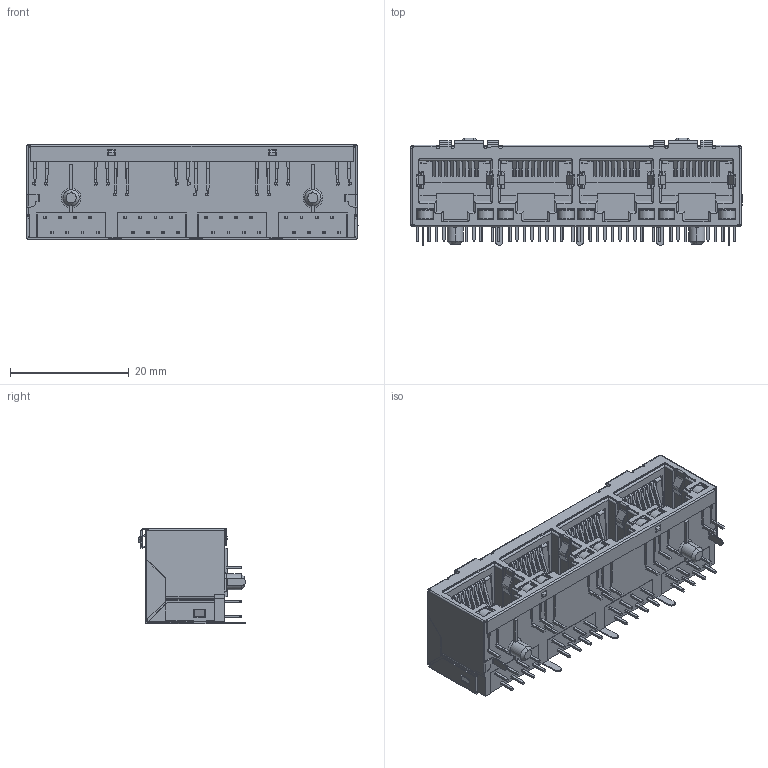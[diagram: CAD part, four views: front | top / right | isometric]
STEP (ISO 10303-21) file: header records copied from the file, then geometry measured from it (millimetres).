
FILE_DESCRIPTION((''),'2;1');
FILE_NAME('DGKYD56F057_ASM_ASM_1_ASM','2024-09-10T15:18:01',('DGKYD'),(''),'CREO PARAMETRIC BY PTC INC, 2019010','CREO PARAMETRIC BY PTC INC, 2019010','');
FILE_SCHEMA(('CONFIG_CONTROL_DESIGN'));
Products named in the file (3): MSBR-2_1; MSBR-1_1; DGKYD56F057_ASM_ASM_1_ASM
Assembly tree (2 placements, depth 2):
  DGKYD56F057_ASM_ASM_1_ASM
    MSBR-2_1
    MSBR-1_1
Bounding box: 55.94 x 18.12 x 16.07 mm (x, y, z)
Volume: 6802 mm3; surface area: 18063.4 mm2
Topology: 2 solids, 2 shells, 3922 faces, 10612 edges, 6574 vertices
Faces by surface type: plane 3067, cylinder 722, bspline 106, torus 13, sphere 10, cone 4
Entity records: 124539 total; most frequent: CARTESIAN_POINT 26467, ORIENTED_EDGE 21204, DIRECTION 19115, EDGE_CURVE 10602, VECTOR 8875, LINE 8875, VERTEX_POINT 6574, AXIS2_PLACEMENT_3D 5120
